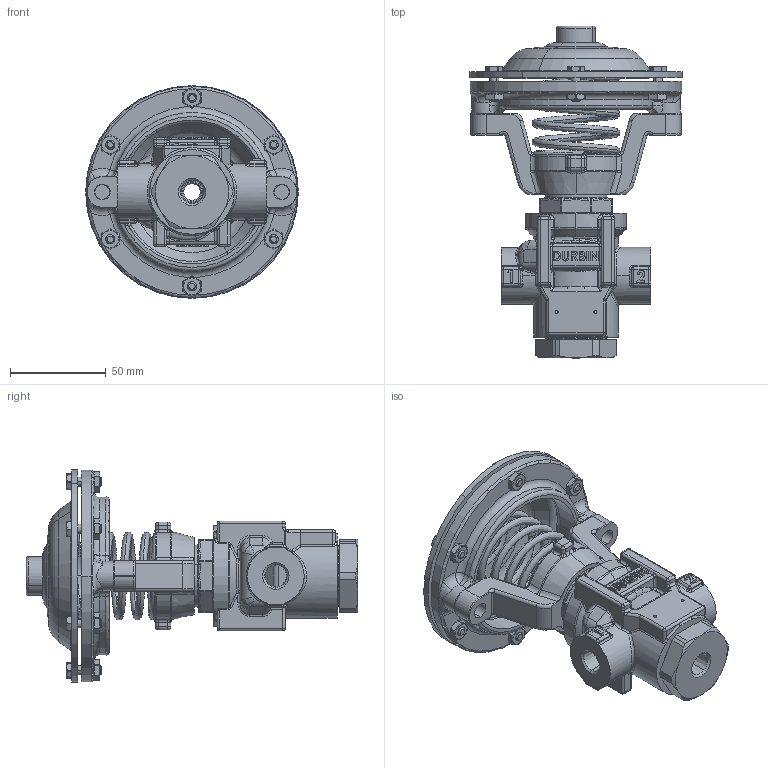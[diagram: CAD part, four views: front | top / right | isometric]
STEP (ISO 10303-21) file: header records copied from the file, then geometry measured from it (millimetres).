
FILE_DESCRIPTION (( 'STEP AP203' ), '1' );
FILE_NAME ('.25-.375 2W-3W NPT SC500-STEP.STEP', '2018-11-07T14:47:59', ( '' ), ( '' ), 'SwSTEP 2.0', 'SolidWorks 2012', '' );
FILE_SCHEMA (( 'CONFIG_CONTROL_DESIGN' ));
Length unit declared in the file: inch
Products named in the file (12): .25-.375 2W-3W NPT SC500-STEP; H064-16; H109-09; D293-130DR; M163-005DR; D171; M163-005DM; M423-002D-SS; D283-184D-SS; C213-196D; C013-015D-SS; C093-258D-SS
Assembly tree (21 placements, depth 3):
  .25-.375 2W-3W NPT SC500-STEP
    C093-258D-SS
    C013-015D-SS
    C213-196D
    D283-184D-SS
    M423-002D-SS
    M163-005DR
      M163-005DM
      D171
    D293-130DR
    H109-09  x6
    H064-16  x6
Bounding box: 110.92 x 173.14 x 110.92 mm (x, y, z)
Volume: 261760.2 mm3; surface area: 121059.5 mm2
Topology: 20 solids, 20 shells, 2363 faces, 5481 edges, 3147 vertices
Faces by surface type: cylinder 539, bspline 512, plane 456, cone 341, torus 274, sphere 241
Entity records: 70828 total; most frequent: CARTESIAN_POINT 31031, ORIENTED_EDGE 8334, DIRECTION 7657, EDGE_CURVE 4167, AXIS2_PLACEMENT_3D 3197, VERTEX_POINT 2477, EDGE_LOOP 1880, CIRCLE 1801
